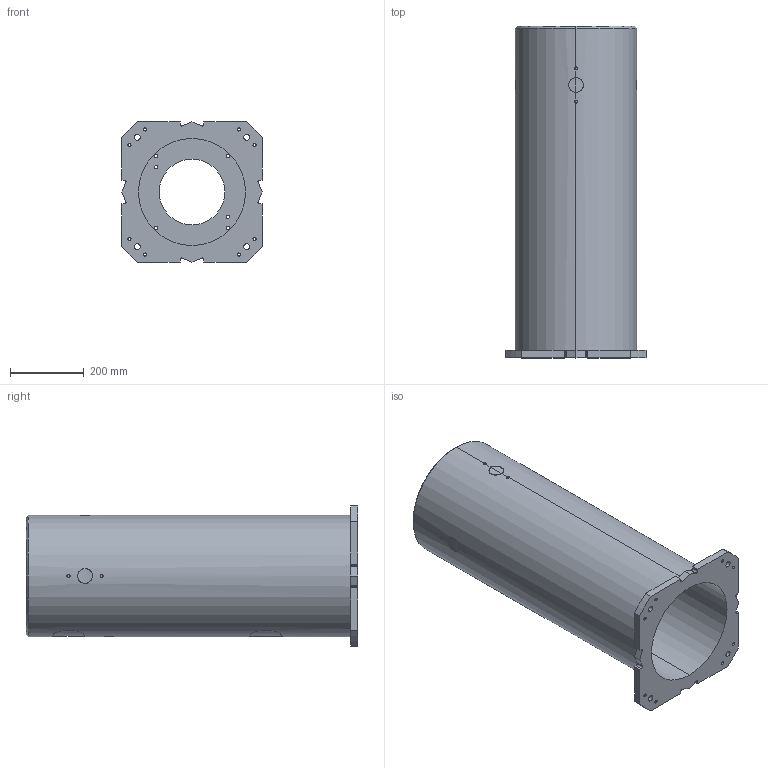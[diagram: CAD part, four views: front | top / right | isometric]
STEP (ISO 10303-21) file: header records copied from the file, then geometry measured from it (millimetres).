
FILE_DESCRIPTION (( 'STEP AP214' ), '1' );
FILE_NAME ('E-900.STEP', '2025-12-05T12:50:32', ( '' ), ( '' ), 'SwSTEP 2.0', 'SolidWorks 2022', '' );
FILE_SCHEMA (( 'AUTOMOTIVE_DESIGN' ));
Length unit declared in the file: millimetre
Products named in the file (1): E-900
Bounding box: 380 x 900 x 380 mm (x, y, z)
Volume: 19264397.9 mm3; surface area: 1990830.6 mm2
Topology: 1 solids, 1 shells, 167 faces, 457 edges, 304 vertices
Faces by surface type: cylinder 113, plane 28, bspline 24, cone 2
Entity records: 12428 total; most frequent: CARTESIAN_POINT 7721, ORIENTED_EDGE 914, DIRECTION 717, EDGE_CURVE 457, VERTEX_POINT 304, AXIS2_PLACEMENT_3D 270, EDGE_LOOP 217, VECTOR 177
